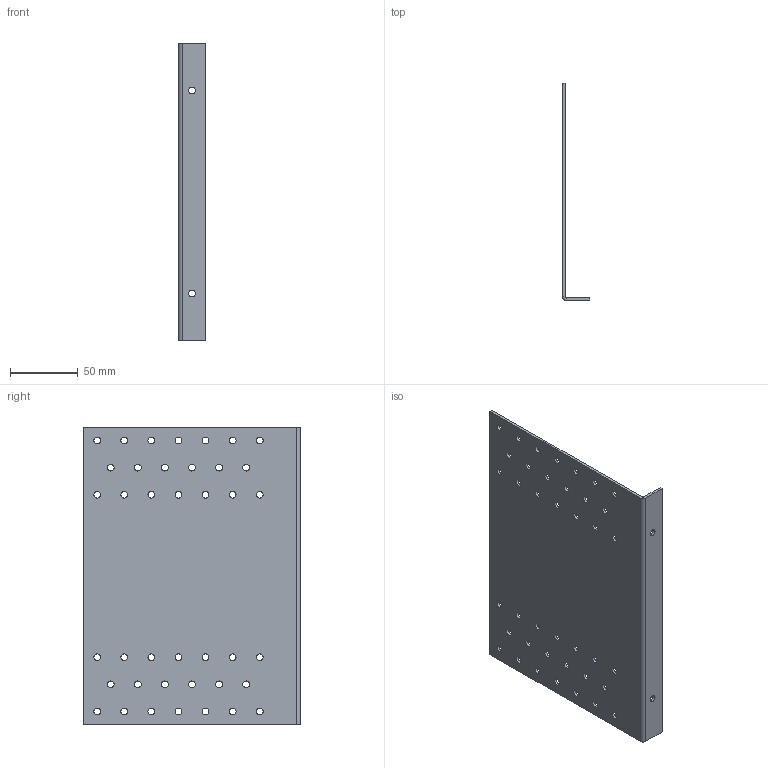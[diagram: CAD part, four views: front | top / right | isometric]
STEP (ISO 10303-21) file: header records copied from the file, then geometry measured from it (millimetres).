
FILE_DESCRIPTION (( 'STEP AP203' ), '1' );
FILE_NAME ('216.STEP', '2020-04-17T13:19:47', ( '' ), ( '' ), 'SwSTEP 2.0', 'SolidWorks 2013', '' );
FILE_SCHEMA (( 'CONFIG_CONTROL_DESIGN' ));
Length unit declared in the file: millimetre
Products named in the file (1): 216
Bounding box: 20 x 160 x 220 mm (x, y, z)
Volume: 76343.6 mm3; surface area: 79252.1 mm2
Topology: 1 solids, 1 shells, 98 faces, 280 edges, 184 vertices
Faces by surface type: cylinder 86, plane 12
Entity records: 3537 total; most frequent: DIRECTION 650, CARTESIAN_POINT 563, ORIENTED_EDGE 560, EDGE_CURVE 280, AXIS2_PLACEMENT_3D 271, VERTEX_POINT 184, EDGE_LOOP 182, CIRCLE 172
